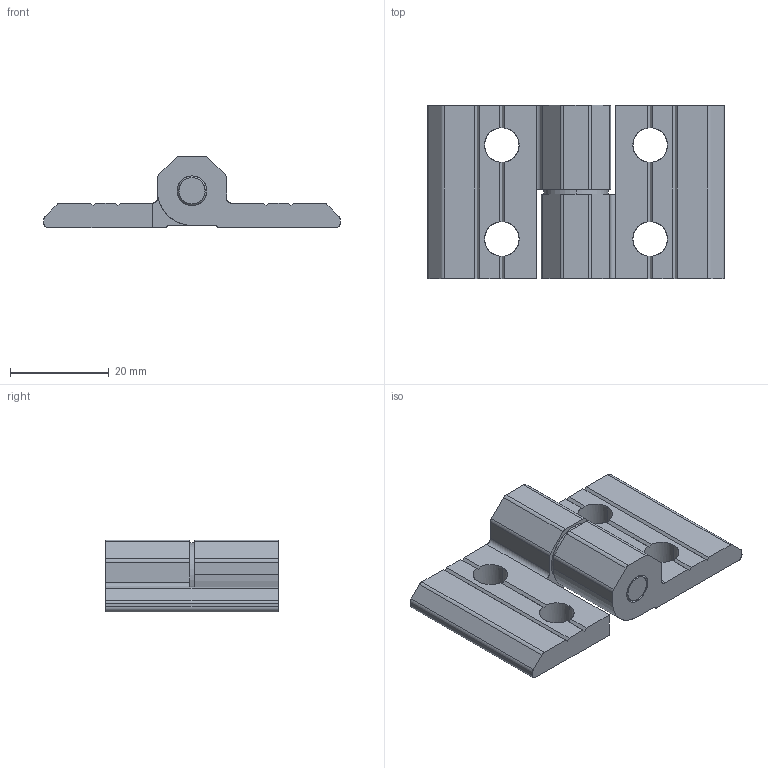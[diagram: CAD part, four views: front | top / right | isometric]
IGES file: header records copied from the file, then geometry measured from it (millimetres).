
Start section: SolidWorks IGES file using analytic representation for surfaces
Global section: file name: C:\Users\admin\Desktop\IGES\J3HR.igs; native system: SolidWorks 2014; preprocessor: SolidWorks 2014; author: admin_pc; date: 170524.165906; units: millimetre
Bounding box: 60 x 35 x 14.5 mm (x, y, z)
Surface area: 7833.6 mm2 (no closed solid volume)
Topology: 0 solids, 0 shells, 150 faces, 1580 edges, 1580 vertices
Faces by surface type: bspline 106, revolution 44
